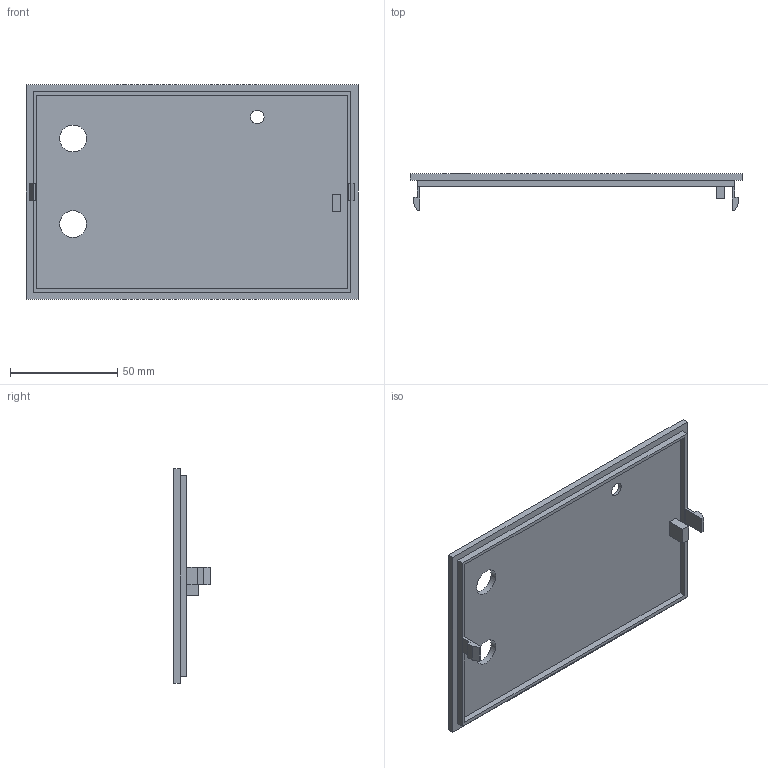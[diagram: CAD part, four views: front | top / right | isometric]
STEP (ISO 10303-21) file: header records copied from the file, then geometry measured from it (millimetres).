
FILE_DESCRIPTION(('Open CASCADE Model'),'2;1');
FILE_NAME('Open CASCADE Shape Model','2026-11-10T15:19:57',('Author'),( 'Open CASCADE'),'Open CASCADE STEP processor 7.8','Open CASCADE 7.8' ,'Unknown');
FILE_SCHEMA(('AUTOMOTIVE_DESIGN { 1 0 10303 214 1 1 1 1 }'));
Length unit declared in the file: millimetre
Products named in the file (1): Open CASCADE STEP translator 7.8 5
Bounding box: 155 x 17 x 100 mm (x, y, z)
Volume: 48377.8 mm3; surface area: 35843.6 mm2
Topology: 1 solids, 1 shells, 42 faces, 102 edges, 68 vertices
Faces by surface type: plane 38, cylinder 4
Full cylindrical faces by diameter (mm): 6.3 x1, 12.5 x2, 14 x1
Entity records: 2532 total; most frequent: CARTESIAN_POINT 447, DIRECTION 370, LINE 260, VECTOR 260, ORIENTED_EDGE 204, PCURVE 204, DEFINITIONAL_REPRESENTATION 204, EDGE_CURVE 102
